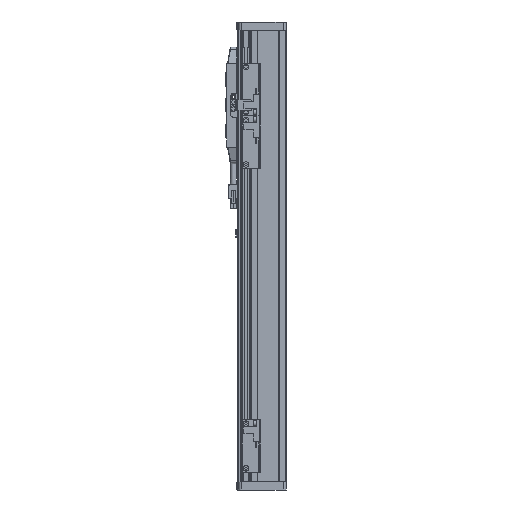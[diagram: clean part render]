
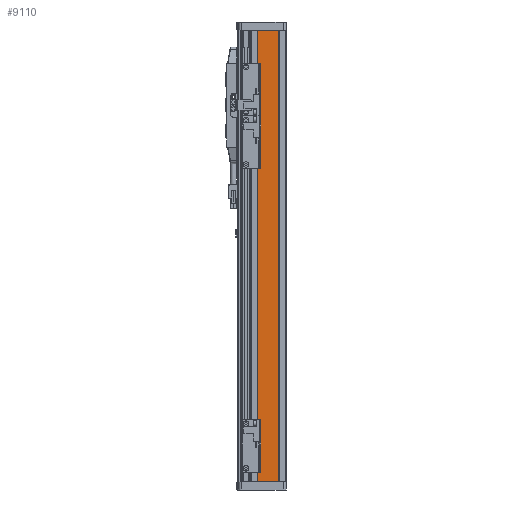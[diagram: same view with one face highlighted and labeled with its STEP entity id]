
A CAD part, left-side view. The second image highlights one B-rep face of the part: STEP entity #9110.
In plain terms, the highlighted planar face has unit normal (-1, 0, 0).
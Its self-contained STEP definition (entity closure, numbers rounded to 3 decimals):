
#152 = PLANE('',#153);
#153 = AXIS2_PLACEMENT_3D('',#154,#155,#156);
#154 = CARTESIAN_POINT('',(0.,0.,225.));
#155 = DIRECTION('',(-0.,0.,1.));
#156 = DIRECTION('',(1.,0.,0.));
#993 = PLANE('',#994);
#994 = AXIS2_PLACEMENT_3D('',#995,#996,#997);
#995 = CARTESIAN_POINT('',(0.,0.,-225.));
#996 = DIRECTION('',(-0.,0.,1.));
#997 = DIRECTION('',(1.,0.,0.));
#4411 = PLANE('',#4412);
#4412 = AXIS2_PLACEMENT_3D('',#4413,#4414,#4415);
#4413 = CARTESIAN_POINT('',(-27.5,-17.,220.));
#4414 = DIRECTION('',(-0.707,0.707,0.));
#4415 = DIRECTION('',(0.,0.,1.));
#4813 = VERTEX_POINT('',#4814);
#4814 = CARTESIAN_POINT('',(-27.1,4.6,225.));
#4828 = PLANE('',#4829);
#4829 = AXIS2_PLACEMENT_3D('',#4830,#4831,#4832);
#4830 = CARTESIAN_POINT('',(-27.1,4.6,220.));
#4831 = DIRECTION('',(-0.707,-0.707,0.));
#4832 = DIRECTION('',(0.,0.,1.));
#4840 = EDGE_CURVE('',#4813,#4841,#4843,.T.);
#4841 = VERTEX_POINT('',#4842);
#4842 = CARTESIAN_POINT('',(-27.1,-16.6,225.));
#4843 = SURFACE_CURVE('',#4844,(#4848,#4855),.PCURVE_S1.);
#4844 = LINE('',#4845,#4846);
#4845 = CARTESIAN_POINT('',(-27.1,8.,225.));
#4846 = VECTOR('',#4847,1.);
#4847 = DIRECTION('',(0.,-1.,0.));
#4848 = PCURVE('',#152,#4849);
#4849 = DEFINITIONAL_REPRESENTATION('',(#4850),#4854);
#4850 = LINE('',#4851,#4852);
#4851 = CARTESIAN_POINT('',(-27.1,8.));
#4852 = VECTOR('',#4853,1.);
#4853 = DIRECTION('',(0.,-1.));
#4854 = ( GEOMETRIC_REPRESENTATION_CONTEXT(2) 
PARAMETRIC_REPRESENTATION_CONTEXT() REPRESENTATION_CONTEXT('2D SPACE',''
  ) );
#4855 = PCURVE('',#4856,#4861);
#4856 = PLANE('',#4857);
#4857 = AXIS2_PLACEMENT_3D('',#4858,#4859,#4860);
#4858 = CARTESIAN_POINT('',(-27.1,8.,220.));
#4859 = DIRECTION('',(1.,0.,0.));
#4860 = DIRECTION('',(0.,1.,0.));
#4861 = DEFINITIONAL_REPRESENTATION('',(#4862),#4866);
#4862 = LINE('',#4863,#4864);
#4863 = CARTESIAN_POINT('',(0.,5.));
#4864 = VECTOR('',#4865,1.);
#4865 = DIRECTION('',(-1.,0.));
#4866 = ( GEOMETRIC_REPRESENTATION_CONTEXT(2) 
PARAMETRIC_REPRESENTATION_CONTEXT() REPRESENTATION_CONTEXT('2D SPACE',''
  ) );
#5880 = VERTEX_POINT('',#5881);
#5881 = CARTESIAN_POINT('',(-27.1,-16.6,-225.));
#5902 = EDGE_CURVE('',#5880,#5903,#5905,.T.);
#5903 = VERTEX_POINT('',#5904);
#5904 = CARTESIAN_POINT('',(-27.1,4.6,-225.));
#5905 = SURFACE_CURVE('',#5906,(#5910,#5917),.PCURVE_S1.);
#5906 = LINE('',#5907,#5908);
#5907 = CARTESIAN_POINT('',(-27.1,0.,-225.));
#5908 = VECTOR('',#5909,1.);
#5909 = DIRECTION('',(0.,1.,0.));
#5910 = PCURVE('',#993,#5911);
#5911 = DEFINITIONAL_REPRESENTATION('',(#5912),#5916);
#5912 = LINE('',#5913,#5914);
#5913 = CARTESIAN_POINT('',(-27.1,0.));
#5914 = VECTOR('',#5915,1.);
#5915 = DIRECTION('',(0.,1.));
#5916 = ( GEOMETRIC_REPRESENTATION_CONTEXT(2) 
PARAMETRIC_REPRESENTATION_CONTEXT() REPRESENTATION_CONTEXT('2D SPACE',''
  ) );
#5917 = PCURVE('',#4856,#5918);
#5918 = DEFINITIONAL_REPRESENTATION('',(#5919),#5923);
#5919 = LINE('',#5920,#5921);
#5920 = CARTESIAN_POINT('',(-8.,-445.));
#5921 = VECTOR('',#5922,1.);
#5922 = DIRECTION('',(1.,0.));
#5923 = ( GEOMETRIC_REPRESENTATION_CONTEXT(2) 
PARAMETRIC_REPRESENTATION_CONTEXT() REPRESENTATION_CONTEXT('2D SPACE',''
  ) );
#9110 = ADVANCED_FACE('',(#9111),#4856,.F.);
#9111 = FACE_BOUND('',#9112,.T.);
#9112 = EDGE_LOOP('',(#9113,#9114,#9135,#9136));
#9113 = ORIENTED_EDGE('',*,*,#4840,.F.);
#9114 = ORIENTED_EDGE('',*,*,#9115,.T.);
#9115 = EDGE_CURVE('',#4813,#5903,#9116,.T.);
#9116 = SURFACE_CURVE('',#9117,(#9121,#9128),.PCURVE_S1.);
#9117 = LINE('',#9118,#9119);
#9118 = CARTESIAN_POINT('',(-27.1,4.6,-220.));
#9119 = VECTOR('',#9120,1.);
#9120 = DIRECTION('',(0.,0.,-1.));
#9121 = PCURVE('',#4856,#9122);
#9122 = DEFINITIONAL_REPRESENTATION('',(#9123),#9127);
#9123 = LINE('',#9124,#9125);
#9124 = CARTESIAN_POINT('',(-3.4,-440.));
#9125 = VECTOR('',#9126,1.);
#9126 = DIRECTION('',(0.,-1.));
#9127 = ( GEOMETRIC_REPRESENTATION_CONTEXT(2) 
PARAMETRIC_REPRESENTATION_CONTEXT() REPRESENTATION_CONTEXT('2D SPACE',''
  ) );
#9128 = PCURVE('',#4828,#9129);
#9129 = DEFINITIONAL_REPRESENTATION('',(#9130),#9134);
#9130 = LINE('',#9131,#9132);
#9131 = CARTESIAN_POINT('',(-440.,0.));
#9132 = VECTOR('',#9133,1.);
#9133 = DIRECTION('',(-1.,0.));
#9134 = ( GEOMETRIC_REPRESENTATION_CONTEXT(2) 
PARAMETRIC_REPRESENTATION_CONTEXT() REPRESENTATION_CONTEXT('2D SPACE',''
  ) );
#9135 = ORIENTED_EDGE('',*,*,#5902,.F.);
#9136 = ORIENTED_EDGE('',*,*,#9137,.T.);
#9137 = EDGE_CURVE('',#5880,#4841,#9138,.T.);
#9138 = SURFACE_CURVE('',#9139,(#9143,#9150),.PCURVE_S1.);
#9139 = LINE('',#9140,#9141);
#9140 = CARTESIAN_POINT('',(-27.1,-16.6,220.));
#9141 = VECTOR('',#9142,1.);
#9142 = DIRECTION('',(0.,0.,1.));
#9143 = PCURVE('',#4856,#9144);
#9144 = DEFINITIONAL_REPRESENTATION('',(#9145),#9149);
#9145 = LINE('',#9146,#9147);
#9146 = CARTESIAN_POINT('',(-24.6,0.));
#9147 = VECTOR('',#9148,1.);
#9148 = DIRECTION('',(0.,1.));
#9149 = ( GEOMETRIC_REPRESENTATION_CONTEXT(2) 
PARAMETRIC_REPRESENTATION_CONTEXT() REPRESENTATION_CONTEXT('2D SPACE',''
  ) );
#9150 = PCURVE('',#4411,#9151);
#9151 = DEFINITIONAL_REPRESENTATION('',(#9152),#9156);
#9152 = LINE('',#9153,#9154);
#9153 = CARTESIAN_POINT('',(0.,0.566));
#9154 = VECTOR('',#9155,1.);
#9155 = DIRECTION('',(1.,0.));
#9156 = ( GEOMETRIC_REPRESENTATION_CONTEXT(2) 
PARAMETRIC_REPRESENTATION_CONTEXT() REPRESENTATION_CONTEXT('2D SPACE',''
  ) );
